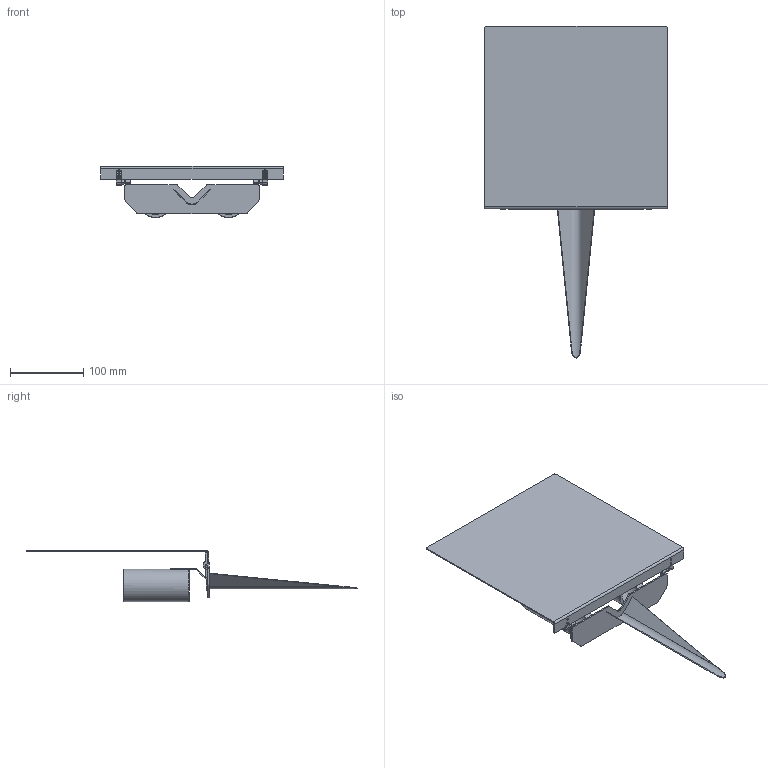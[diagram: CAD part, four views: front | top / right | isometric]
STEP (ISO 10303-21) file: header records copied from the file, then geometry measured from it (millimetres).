
FILE_DESCRIPTION(/* description */ (''),/* implementation_level */ '2;1');
FILE_NAME(/* name */ 'C:\Users\Giulia\Desktop\1683 - BELLADINOTTE 2.stp',/* time_stamp */ '2015-04-24T11:00:50+02:00',/* author */ ('Giulia'),/* organization */ (''),/* preprocessor_version */ 'ST-DEVELOPER v15.6',/* originating_system */ 'Autodesk Inventor 2015',/* authorisation */ '');
FILE_SCHEMA (('AUTOMOTIVE_DESIGN { 1 0 10303 214 3 1 1 }'));
Products named in the file (1): 1683 - BELLADINOTTE 2
Bounding box: 250 x 454.34 x 70.39 mm (x, y, z)
Volume: 340868.2 mm3; surface area: 207729 mm2
Topology: 2 solids, 702 shells, 812 faces, 3859 edges, 3768 vertices
Faces by surface type: plane 479, bspline 184, cylinder 97, cone 48, torus 4
Full cylindrical faces by diameter (mm): 3 x4, 5 x2, 35 x2, 38.5 x2, 44.5 x2
Entity records: 54698 total; most frequent: CARTESIAN_POINT 25847, DIRECTION 4720, ORIENTED_EDGE 4078, EDGE_CURVE 3821, VERTEX_POINT 3740, LINE 2710, VECTOR 2710, AXIS2_PLACEMENT_3D 1005
